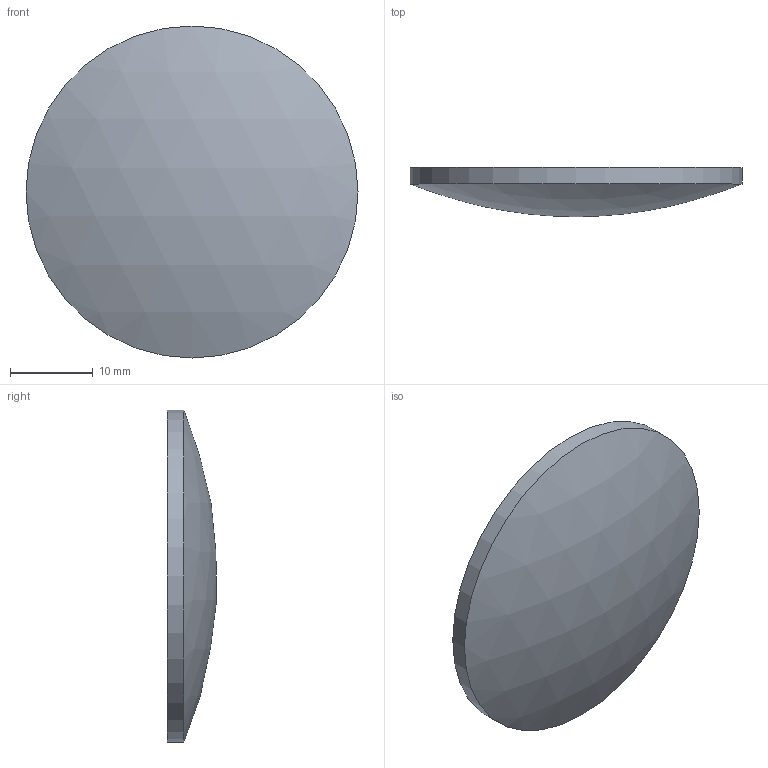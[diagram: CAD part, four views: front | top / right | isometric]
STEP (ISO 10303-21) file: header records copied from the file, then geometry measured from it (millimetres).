
FILE_DESCRIPTION((''),'2;1');
FILE_NAME('Y:\メカ関係\2能登便\素子ﾓﾃﾞﾙ（角屋さま野中さま⇒川島）\5月分\1_球面平凸レンズ-BK7\SLB-P\φ40\SLB-40-100P\SLB-40-100P.stp','2009-05-20T09:51:20',('usernoto011'),(''),'Autodesk Inventor 2008','Autodesk Inventor 2008','');
FILE_SCHEMA(('AUTOMOTIVE_DESIGN { 1 0 10303 214 1 1 1 1 }'));
Length unit declared in the file: millimetre
Products named in the file (1): SLB-40-100P
Bounding box: 40 x 5.92 x 40 mm (x, y, z)
Volume: 5055 mm3; surface area: 2814 mm2
Topology: 1 solids, 1 shells, 3 faces, 3 edges, 2 vertices
Faces by surface type: sphere 1, cylinder 1, plane 1
Full cylindrical faces by diameter (mm): 40 x1
Entity records: 80 total; most frequent: DIRECTION 12, CARTESIAN_POINT 8, AXIS2_PLACEMENT_3D 6, ORIENTED_EDGE 4, EDGE_LOOP 4, FACE_OUTER_BOUND 3, ADVANCED_FACE 3, DIMENSIONAL_EXPONENTS 2
